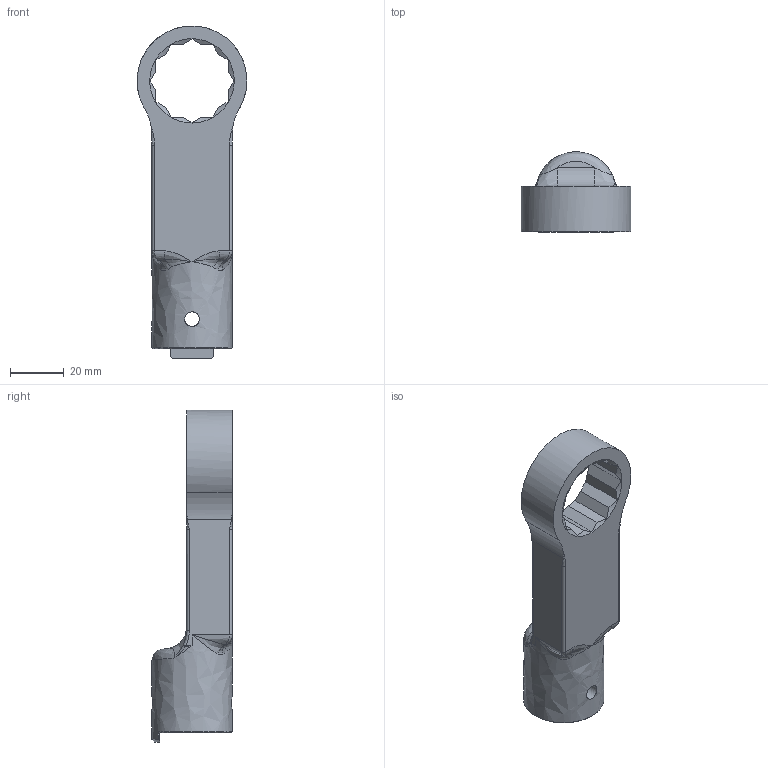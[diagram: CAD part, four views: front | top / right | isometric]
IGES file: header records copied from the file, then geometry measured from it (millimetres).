
Global section: file name: RH22DX27; native system: Autodesk Inventor 2016; preprocessor: unknown; author: Q600; date: 20151110.162736; units: millimetre
Bounding box: 40.97 x 30 x 124 mm (x, y, z)
Volume: 48636.1 mm3; surface area: 14932.2 mm2
Topology: 1 solids, 1 shells, 87 faces, 243 edges, 145 vertices
Faces by surface type: bspline 87
